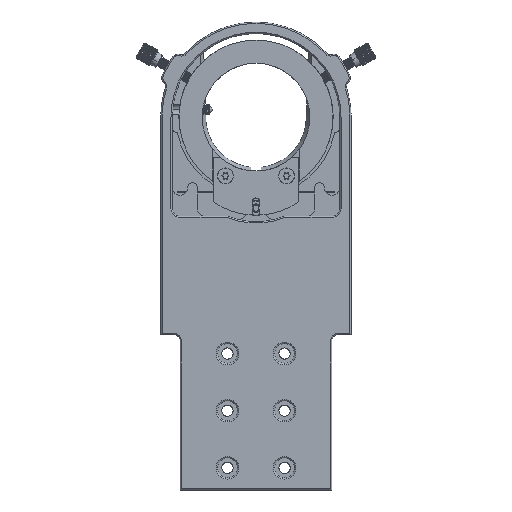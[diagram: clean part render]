
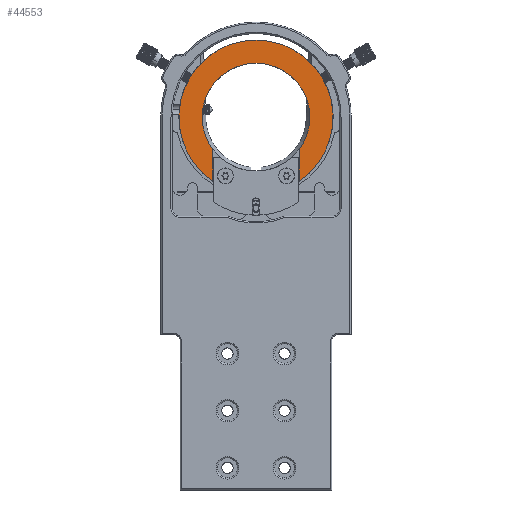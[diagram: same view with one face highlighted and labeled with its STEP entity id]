
A CAD part, front view. The second image highlights one B-rep face of the part: STEP entity #44553.
In plain terms, the highlighted planar face has unit normal (0, -1, 0).
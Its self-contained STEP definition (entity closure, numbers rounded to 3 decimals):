
#37088=CARTESIAN_POINT('',(-41.577,-12.447,
82.418));
#37089=DIRECTION('',(0.,-1.,0.));
#37090=DIRECTION('',(0.558,0.,-0.83));
#37091=AXIS2_PLACEMENT_3D('',#37088,#37089,#37090);
#38303=DIRECTION('',(0.,0.,-1.));
#38304=VECTOR('',#38303,12.588);
#38305=CARTESIAN_POINT('',(-58.798,-12.447,
69.396));
#38306=LINE('',#38305,#38304);
#38307=DIRECTION('',(0.,0.,1.));
#38308=VECTOR('',#38307,12.588);
#38309=CARTESIAN_POINT('',(-24.356,-12.447,
56.809));
#38310=LINE('',#38309,#38308);
#38311=CARTESIAN_POINT('',(-41.577,-12.447,
82.418));
#38312=DIRECTION('',(0.,-1.,0.));
#38313=DIRECTION('',(0.798,0.,-0.603));
#38314=AXIS2_PLACEMENT_3D('',#38311,#38312,#38313);
#41260=CARTESIAN_POINT('',(-58.798,-12.447,
69.396));
#41261=CARTESIAN_POINT('',(-58.798,-12.447,
56.809));
#41262=VERTEX_POINT('',#41260);
#41263=VERTEX_POINT('',#41261);
#41264=CARTESIAN_POINT('',(-24.356,-12.447,
56.809));
#41265=CARTESIAN_POINT('',(-24.356,-12.447,
69.396));
#41266=VERTEX_POINT('',#41264);
#41267=VERTEX_POINT('',#41265);
#44541=CARTESIAN_POINT('',(-41.577,-12.447,
82.418));
#44542=DIRECTION('',(0.,-1.,0.));
#44543=DIRECTION('',(0.,0.,-1.));
#44544=AXIS2_PLACEMENT_3D('',#44541,#44542,#44543);
#44545=PLANE('',#44544);
#44547=ORIENTED_EDGE('',*,*,#44546,.T.);
#44548=ORIENTED_EDGE('',*,*,#41899,.F.);
#44549=ORIENTED_EDGE('',*,*,#44535,.T.);
#44550=ORIENTED_EDGE('',*,*,#41818,.T.);
#44551=EDGE_LOOP('',(#44547,#44548,#44549,#44550));
#44552=FACE_OUTER_BOUND('',#44551,.F.);
#44553=ADVANCED_FACE('',(#44552),#44545,.T.);
#37092=CIRCLE('',#37091,30.861);
#38315=CIRCLE('',#38314,21.59);
#41818=EDGE_CURVE('',#41267,#41262,#38315,.T.);
#41899=EDGE_CURVE('',#41266,#41263,#37092,.T.);
#44535=EDGE_CURVE('',#41266,#41267,#38310,.T.);
#44546=EDGE_CURVE('',#41262,#41263,#38306,.T.);
